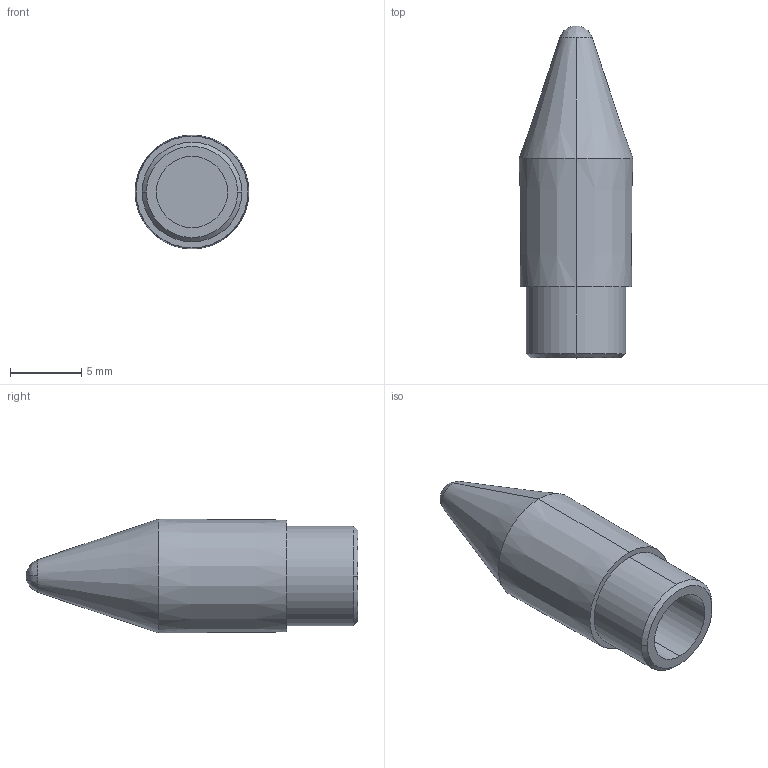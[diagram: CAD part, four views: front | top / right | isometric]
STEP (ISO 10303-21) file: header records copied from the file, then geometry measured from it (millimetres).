
FILE_DESCRIPTION (( 'STEP AP203' ), '1' );
FILE_NAME ('SILVENT_5003_STEP.STEP', '2019-11-11T07:58:51', ( '' ), ( '' ), 'SwSTEP 2.0', 'SolidWorks 2016', '' );
FILE_SCHEMA (( 'CONFIG_CONTROL_DESIGN' ));
Length unit declared in the file: millimetre
Products named in the file (2): SILVENT_5003_STEP
Bounding box: 8 x 23.3 x 8 mm (x, y, z)
Volume: 442.6 mm3; surface area: 811.9 mm2
Topology: 1 solids, 1 shells, 18 faces, 40 edges, 25 vertices
Faces by surface type: cone 6, cylinder 6, plane 4, bspline 2
Entity records: 677 total; most frequent: CARTESIAN_POINT 113, DIRECTION 100, ORIENTED_EDGE 76, AXIS2_PLACEMENT_3D 44, EDGE_CURVE 38, CIRCLE 26, VERTEX_POINT 25, EDGE_LOOP 21
